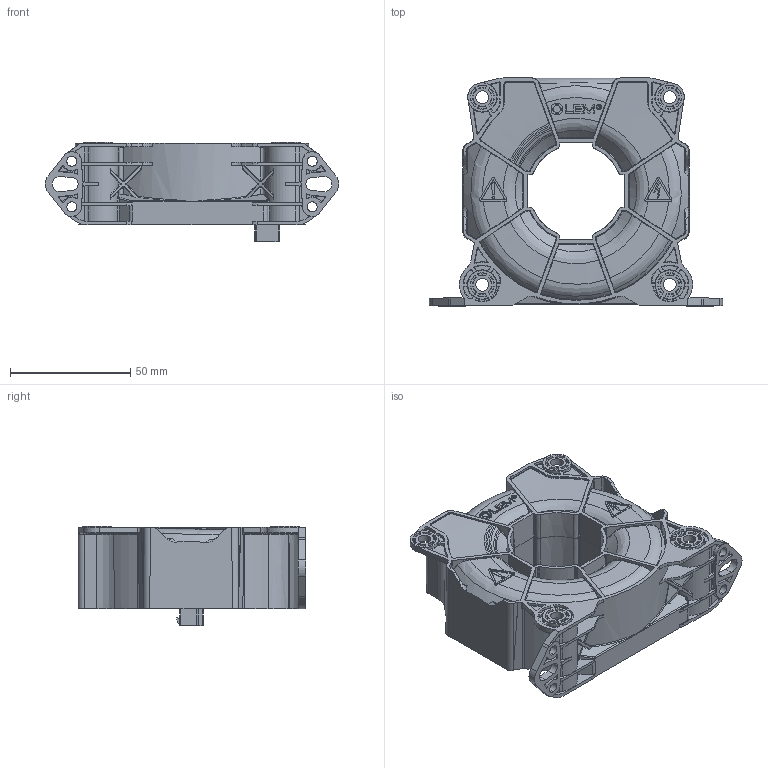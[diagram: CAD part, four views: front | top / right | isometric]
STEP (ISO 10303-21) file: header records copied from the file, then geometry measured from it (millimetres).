
FILE_DESCRIPTION((''),'2;1');
FILE_NAME('MINIFIT_JR_5566_POS_T5_1','2016-07-22T',(''),('PTC'),'CREO PARAMETRIC BY PTC INC, 18.00','CREO PARAMETRIC BY PTC INC, 18.00','');
FILE_SCHEMA(('CONFIG_CONTROL_DESIGN'));
Products named in the file (1): MINIFIT_JR_5566_POS_T5_1
Bounding box: 122 x 94.8 x 41.2 mm (x, y, z)
Volume: 203954.6 mm3; surface area: 39307 mm2
Topology: 1 solids, 1 shells, 2566 faces, 6727 edges, 4229 vertices
Faces by surface type: bspline 1329, plane 664, cylinder 305, cone 170, torus 90, extrusion 4, sphere 4
Entity records: 178293 total; most frequent: CARTESIAN_POINT 127629, ORIENTED_EDGE 13430, EDGE_CURVE 6715, DIRECTION 5978, VERTEX_POINT 4229, B_SPLINE_CURVE_WITH_KNOTS 4126, EDGE_LOOP 2666, FACE_OUTER_BOUND 2566
